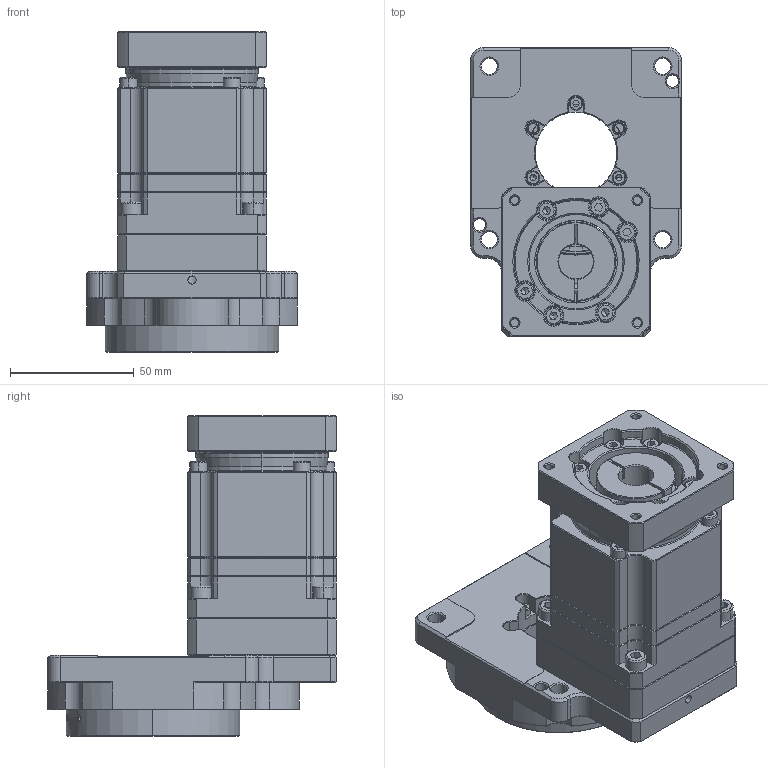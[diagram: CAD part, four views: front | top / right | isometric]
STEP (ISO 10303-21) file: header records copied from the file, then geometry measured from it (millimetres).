
FILE_DESCRIPTION (( 'STEP AP203' ), '1' );
FILE_NAME ('HRG85A(85-10ÖÐ¿Õ).STEP', '2020-06-24T05:39:32', ( '' ), ( '' ), 'SwSTEP 2.0', 'SolidWorks 2012', '' );
FILE_SCHEMA (( 'CONFIG_CONTROL_DESIGN' ));
Length unit declared in the file: millimetre
Products named in the file (1): HRG85A(85-10笢諾)
Bounding box: 85 x 116.5 x 129.5 mm (x, y, z)
Surface area: 79917 mm2 (no closed solid volume)
Topology: 0 solids, 45 shells, 956 faces, 2884 edges, 1896 vertices
Faces by surface type: plane 387, cone 270, cylinder 221, torus 53, bspline 25
Entity records: 35695 total; most frequent: CARTESIAN_POINT 10291, DIRECTION 5369, ORIENTED_EDGE 4838, EDGE_CURVE 2858, AXIS2_PLACEMENT_3D 1967, VERTEX_POINT 1896, VECTOR 1435, LINE 1435
